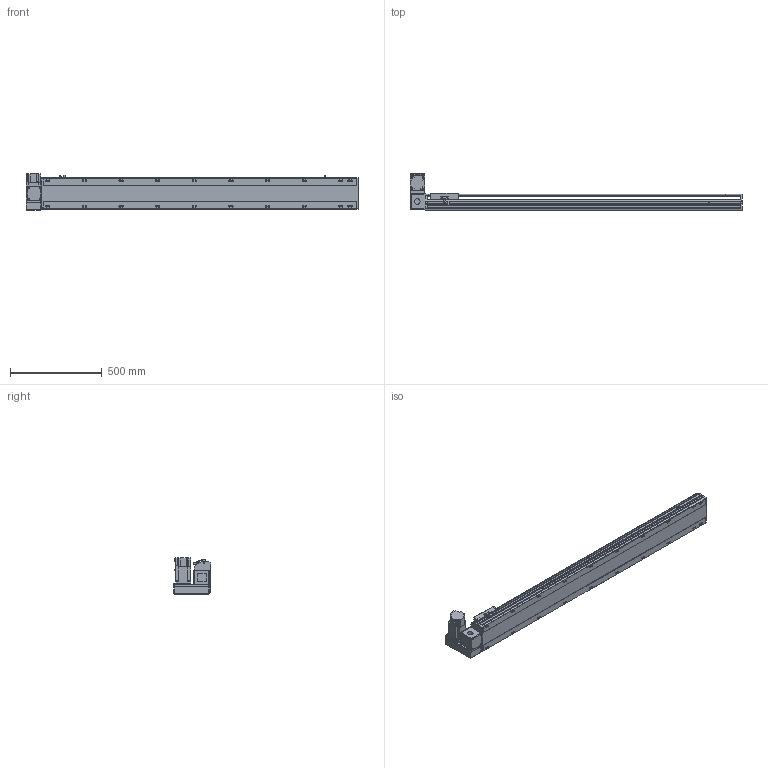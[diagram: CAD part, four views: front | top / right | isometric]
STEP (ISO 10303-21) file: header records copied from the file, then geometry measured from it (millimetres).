
FILE_DESCRIPTION( ( 'STEP AP214' ), '1' );
FILE_NAME( 'x:/temp/worker_4/temp/exporttempdir_2248_402_3jemm/format_0/PBS170-P40-S1450-LU-T75-C1-N(0).stp', '2022-06-07T08:15:56', ( 'License CC BY-ND 4.0' ), ( 'CADENAS' ), ' ', 'PARTsolutions', ' ' );
FILE_SCHEMA( ( 'AUTOMOTIVE_DESIGN { 1 0 10303 214 1 1 1 1 }' ) );
Length unit declared in the file: millimetre
Products named in the file (7): PBS170-P40-S1450-LU-T75-C1-N(0); _PBS170-S1450()_body; _PBS170T-LU_motors; _T75-p1; _PBS170_sliser; _PBS170_plant; _PBS170_sensor
Assembly tree (8 placements, depth 2):
  PBS170-P40-S1450-LU-T75-C1-N(0)
    _PBS170-S1450()_body
    _PBS170T-LU_motors
    _T75-p1
    _PBS170_sliser
    _PBS170_plant
    _PBS170_sensor  x3
Bounding box: 1813 x 206 x 197.3 mm (x, y, z)
Volume: 14194067.4 mm3; surface area: 1828093.7 mm2
Topology: 8 solids, 8 shells, 1114 faces, 2955 edges, 1926 vertices
Faces by surface type: plane 699, cylinder 355, cone 50, sphere 8, torus 2
Full cylindrical faces by diameter (mm): 3.242 x4, 4 x2, 4.4 x4, 4.5 x6, 4.917 x4, 6 x9, 6.647 x28, 7 x2, 7.5 x4, 8 x8, 8.5 x20, 10 x4, 10.5 x20, 11 x2, 30 x2, 40 x1, 70 x1
Entity records: 41024 total; most frequent: CARTESIAN_POINT 6557, DIRECTION 5440, ORIENTED_EDGE 5148, EDGE_CURVE 2574, AXIS2_PLACEMENT_3D 1897, VERTEX_POINT 1778, LINE 1646, VECTOR 1646
